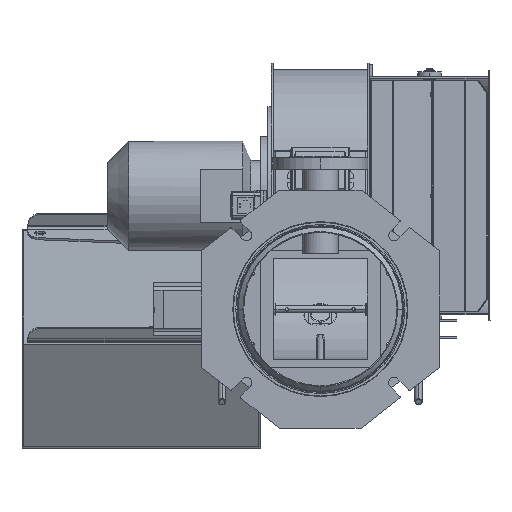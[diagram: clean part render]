
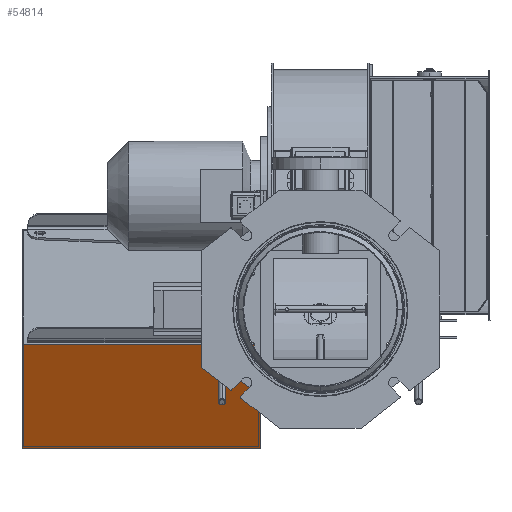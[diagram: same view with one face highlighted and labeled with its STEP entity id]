
A CAD part, front view. The second image highlights one B-rep face of the part: STEP entity #54814.
In plain terms, the highlighted planar face has unit normal (0, -0.876, -0.483).
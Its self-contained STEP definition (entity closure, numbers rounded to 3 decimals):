
#4664 = VERTEX_POINT ( 'NONE', #40726 ) ;
#6132 = DIRECTION ( 'NONE',  ( 0., -0.483, 0.876 ) ) ;
#7063 = VECTOR ( 'NONE', #64868, 1000. ) ;
#12677 = DIRECTION ( 'NONE',  ( 0., 0.483, -0.876 ) ) ;
#14871 = CARTESIAN_POINT ( 'NONE',  ( -101., -121.474, -277.439 ) ) ;
#15126 = ORIENTED_EDGE ( 'NONE', *, *, #88792, .T. ) ;
#15747 = ORIENTED_EDGE ( 'NONE', *, *, #94013, .T. ) ;
#19368 = LINE ( 'NONE', #31004, #74330 ) ;
#22059 = VERTEX_POINT ( 'NONE', #90156 ) ;
#22200 = DIRECTION ( 'NONE',  ( -1., 0., 0. ) ) ;
#24542 = EDGE_LOOP ( 'NONE', ( #72890, #15747, #15126, #44130 ) ) ;
#27827 = AXIS2_PLACEMENT_3D ( 'NONE', #14871, #81029, #106563 ) ;
#31004 = CARTESIAN_POINT ( 'NONE',  ( -101., -121.474, -277.439 ) ) ;
#40726 = CARTESIAN_POINT ( 'NONE',  ( -501., -24.884, -452.569 ) ) ;
#44130 = ORIENTED_EDGE ( 'NONE', *, *, #105100, .T. ) ;
#45023 = VECTOR ( 'NONE', #22200, 1000. ) ;
#47720 = PLANE ( 'NONE',  #27827 ) ;
#53312 = VECTOR ( 'NONE', #12677, 1000. ) ;
#54814 = ADVANCED_FACE ( 'NONE', ( #92073 ), #47720, .T. ) ;
#57932 = VERTEX_POINT ( 'NONE', #78832 ) ;
#62720 = CARTESIAN_POINT ( 'NONE',  ( -501., -121.474, -277.439 ) ) ;
#64868 = DIRECTION ( 'NONE',  ( 1., 0., 0. ) ) ;
#65307 = CARTESIAN_POINT ( 'NONE',  ( -501., -121.474, -277.439 ) ) ;
#69895 = LINE ( 'NONE', #89687, #7063 ) ;
#72890 = ORIENTED_EDGE ( 'NONE', *, *, #92863, .T. ) ;
#73702 = CARTESIAN_POINT ( 'NONE',  ( -101., -121.474, -277.439 ) ) ;
#74330 = VECTOR ( 'NONE', #6132, 1000. ) ;
#78832 = CARTESIAN_POINT ( 'NONE',  ( -101., -24.884, -452.569 ) ) ;
#81029 = DIRECTION ( 'NONE',  ( 0., -0.876, -0.483 ) ) ;
#88792 = EDGE_CURVE ( 'NONE', #22059, #4664, #105679, .T. ) ;
#89687 = CARTESIAN_POINT ( 'NONE',  ( -101., -24.884, -452.569 ) ) ;
#90156 = CARTESIAN_POINT ( 'NONE',  ( -501., -121.474, -277.439 ) ) ;
#92073 = FACE_OUTER_BOUND ( 'NONE', #24542, .T. ) ;
#92863 = EDGE_CURVE ( 'NONE', #57932, #99565, #19368, .T. ) ;
#94013 = EDGE_CURVE ( 'NONE', #99565, #22059, #106488, .T. ) ;
#99565 = VERTEX_POINT ( 'NONE', #73702 ) ;
#105100 = EDGE_CURVE ( 'NONE', #4664, #57932, #69895, .T. ) ;
#105679 = LINE ( 'NONE', #62720, #53312 ) ;
#106488 = LINE ( 'NONE', #65307, #45023 ) ;
#106563 = DIRECTION ( 'NONE',  ( -1., 0., 0. ) ) ;
